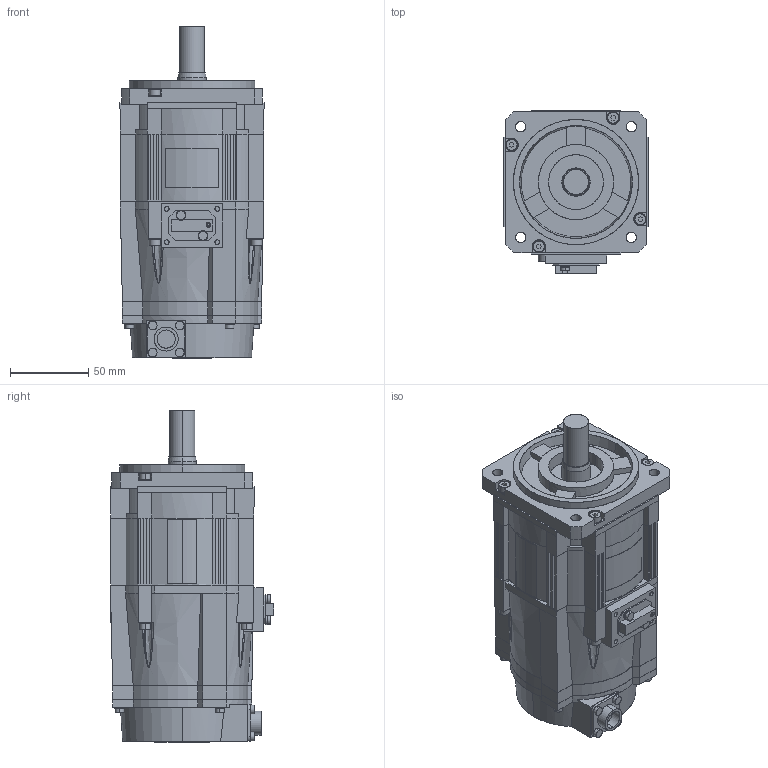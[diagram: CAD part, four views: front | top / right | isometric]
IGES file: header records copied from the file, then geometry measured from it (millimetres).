
Start section: SolidWorks IGES file using analytic representation for surfaces
Global section: file name: D:\YASKAWA\sgm7g_05__a2c.IGS; native system: SolidWorks 2006 by SolidWorks Corporation; preprocessor: SolidWorks 2006 by SolidWorks Corporation; author: yamanouchi; date: 140507.140643; units: millimetre
Bounding box: 92 x 104.5 x 212.1 mm (x, y, z)
Surface area: 97269.7 mm2 (no closed solid volume)
Topology: 0 solids, 0 shells, 630 faces, 7630 edges, 7630 vertices
Faces by surface type: bspline 437, revolution 193
